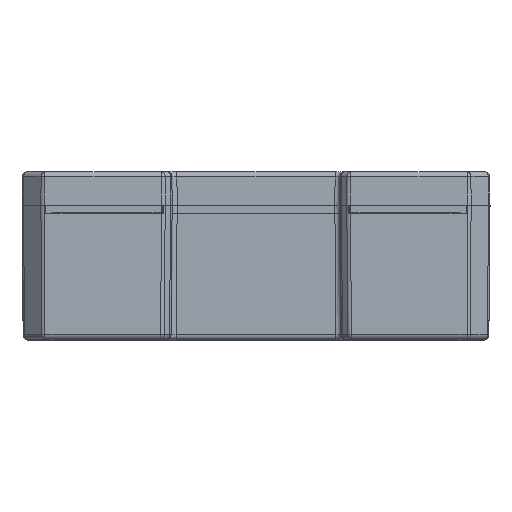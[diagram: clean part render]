
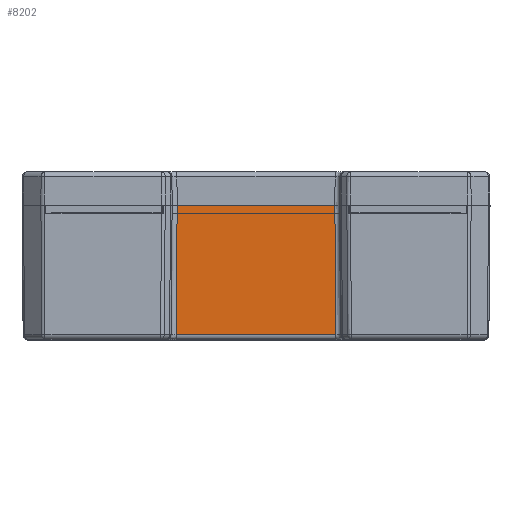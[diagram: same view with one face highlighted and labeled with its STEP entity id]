
A CAD part, top view. The second image highlights one B-rep face of the part: STEP entity #8202.
In plain terms, the highlighted planar face has unit normal (0, -0.009, 1).
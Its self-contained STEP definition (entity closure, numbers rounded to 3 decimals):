
#217=PLANE('',#8774);
#820=LINE('',#12741,#1718);
#825=LINE('',#12757,#1723);
#826=LINE('',#12760,#1724);
#827=LINE('',#12761,#1725);
#1718=VECTOR('',#10061,1.);
#1723=VECTOR('',#10076,1.);
#1724=VECTOR('',#10081,1.);
#1725=VECTOR('',#10082,1.);
#2449=FACE_OUTER_BOUND('',#2966,.T.);
#2966=EDGE_LOOP('',(#6194,#6195,#6196,#6197));
#3939=VERTEX_POINT('',#12739);
#3940=VERTEX_POINT('',#12740);
#3945=VERTEX_POINT('',#12754);
#3946=VERTEX_POINT('',#12756);
#4772=EDGE_CURVE('',#3939,#3940,#820,.T.);
#4780=EDGE_CURVE('',#3946,#3945,#825,.T.);
#4782=EDGE_CURVE('',#3945,#3939,#826,.T.);
#4783=EDGE_CURVE('',#3946,#3940,#827,.T.);
#6194=ORIENTED_EDGE('',*,*,#4780,.T.);
#6195=ORIENTED_EDGE('',*,*,#4782,.T.);
#6196=ORIENTED_EDGE('',*,*,#4772,.T.);
#6197=ORIENTED_EDGE('',*,*,#4783,.F.);
#8202=ADVANCED_FACE('',(#2449),#217,.F.);
#8774=AXIS2_PLACEMENT_3D('',#12759,#10079,#10080);
#10061=DIRECTION('',(-0.009,1.,0.009));
#10076=DIRECTION('',(-0.009,-1.,-0.009));
#10079=DIRECTION('center_axis',(0.,0.009,-1.));
#10080=DIRECTION('ref_axis',(1.,0.,0.));
#10081=DIRECTION('',(1.,0.,0.));
#10082=DIRECTION('',(1.,0.,0.));
#12739=CARTESIAN_POINT('',(9.03,-4.08,63.472));
#12740=CARTESIAN_POINT('',(8.963,3.622,63.539));
#12741=CARTESIAN_POINT('',(8.963,3.62,63.539));
#12754=CARTESIAN_POINT('',(-0.505,-4.08,63.472));
#12756=CARTESIAN_POINT('',(-0.437,3.622,63.539));
#12757=CARTESIAN_POINT('',(-0.507,-4.38,63.469));
#12759=CARTESIAN_POINT('Origin',(10.823,3.622,63.539));
#12760=CARTESIAN_POINT('',(10.823,-4.08,63.472));
#12761=CARTESIAN_POINT('',(-0.737,3.622,63.539));
